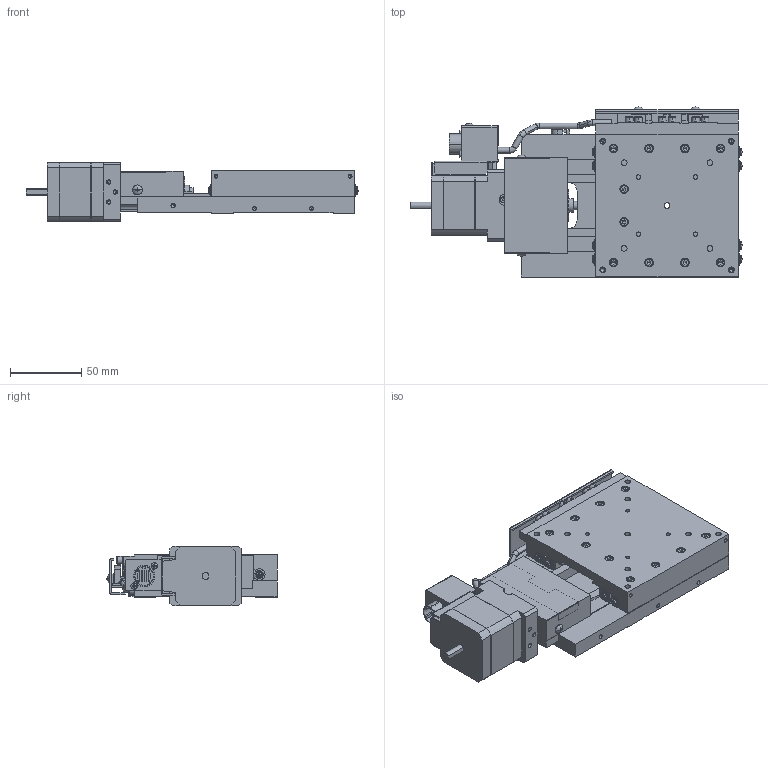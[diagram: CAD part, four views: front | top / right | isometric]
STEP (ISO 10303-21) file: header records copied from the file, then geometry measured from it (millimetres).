
FILE_DESCRIPTION (( 'STEP AP203' ), '1' );
FILE_NAME ('XA10F-R202-R.STEP', '2019-03-06T07:06:50', ( '' ), ( '' ), 'SwSTEP 2.0', 'SolidWorks 2018', '' );
FILE_SCHEMA (( 'CONFIG_CONTROL_DESIGN' ));
Length unit declared in the file: millimetre
Products named in the file (3): base; table; XA10F-R202-R
Assembly tree (2 placements, depth 2):
  XA10F-R202-R
    table
    base
Bounding box: 232.48 x 119.09 x 42 mm (x, y, z)
Volume: 439799.9 mm3; surface area: 128766.4 mm2
Topology: 2 solids, 2 shells, 2048 faces, 5099 edges, 3129 vertices
Faces by surface type: plane 1237, cylinder 481, cone 260, sphere 36, torus 34
Entity records: 61100 total; most frequent: CARTESIAN_POINT 11004, DIRECTION 10853, ORIENTED_EDGE 10038, EDGE_CURVE 5019, AXIS2_PLACEMENT_3D 3854, VECTOR 3145, LINE 3145, VERTEX_POINT 3129
